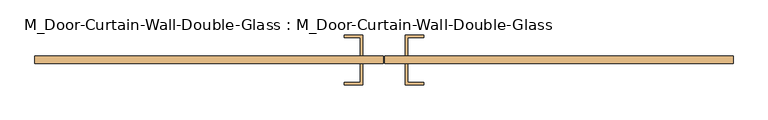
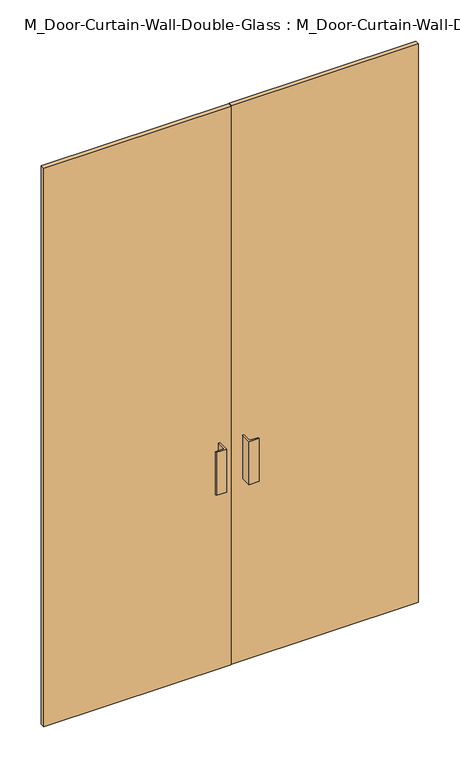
"""IFC4 building model written with IfcOpenShell, lengths in millimetres: door geometry, M_Door-Curtain-Wall-Double-Glass : M_Door-Curtain-Wall-Double-Glass."""

from ifc_helpers import new_model, si_unit, frame, origin, origin_with_axes, place, context, project, spatial, polyline, outline, extrude, source, transform, mapped, element, save


def m_door_curtain_wall_double_glass_m_door_curtain_wall_double_e74171b8(model_context):
    return source(origin(), model_context, "Body", "SweptSolid", [
        extrude(outline(polyline([(-1.5643999, 31.75), (-838.2, 31.75), (-838.2, 50.8), (-1.5643999, 50.8), (-1.5643999, 31.75)])), origin_with_axes(), (0.0, 0.0, 1.0), 2640.780647),
        extrude(outline(polyline([(838.2, 31.75), (1.6106001, 31.75), (1.6106001, 50.8), (838.2, 50.8), (838.2, 31.75)])), origin_with_axes(), (0.0, 0.0, 1.0), 2640.780647),
        extrude(outline(polyline([(-50.7768999, 101.6), (-50.7768999, 50.8), (-57.1268999, 50.8), (-57.1268999, 95.25), (-95.2268999, 95.25), (-95.2268999, 101.6), (-50.7768999, 101.6)])), frame((0.0, 0.0, 863.6), z_axis=(0.0, 0.0, 1.0), x_axis=(1.0, 0.0, 0.0)), (0.0, 0.0, 1.0), 203.2),
        extrude(outline(polyline([(50.8231001, 101.6), (95.2731001, 101.6), (95.2731001, 95.25), (57.1731001, 95.25), (57.1731001, 50.8), (50.8231001, 50.8), (50.8231001, 101.6)])), frame((0.0, 0.0, 863.6), z_axis=(0.0, 0.0, 1.0), x_axis=(1.0, 0.0, 0.0)), (0.0, 0.0, 1.0), 203.2),
        extrude(outline(polyline([(-50.7768999, -19.05), (-95.2268999, -19.05), (-95.2268999, -12.7), (-57.1268999, -12.7), (-57.1268999, 31.75), (-50.7768999, 31.75), (-50.7768999, -19.05)])), frame((0.0, 0.0, 863.6), z_axis=(0.0, 0.0, 1.0), x_axis=(1.0, 0.0, 0.0)), (0.0, 0.0, 1.0), 203.2),
        extrude(outline(polyline([(50.8231001, -19.05), (50.8231001, 31.75), (57.1731001, 31.75), (57.1731001, -12.7), (95.2731001, -12.7), (95.2731001, -19.05), (50.8231001, -19.05)])), frame((0.0, 0.0, 863.6), z_axis=(0.0, 0.0, 1.0), x_axis=(1.0, 0.0, 0.0)), (0.0, 0.0, 1.0), 203.2),
    ])


if __name__ == "__main__":
    model = new_model("IFC4")
    model_context = context("Model", 3, world=origin())
    ifc_project = project(units=[si_unit("LENGTHUNIT", "METRE", prefix="MILLI")], contexts=[model_context])
    site = spatial("IfcSite", under=ifc_project)
    building = spatial("IfcBuilding", under=site)
    placement = place(None, origin())
    m_door_curtain_wall_double_glass_m_door_curtain_wall_double_shape = m_door_curtain_wall_double_glass_m_door_curtain_wall_double_e74171b8(model_context)
    element("IfcDoor", 1, ObjectType="M_Door-Curtain-Wall-Double-Glass : M_Door-Curtain-Wall-Double-Glass", at=placement, inside=building, context=model_context, shape_type="MappedRepresentation", body=[
        mapped(m_door_curtain_wall_double_glass_m_door_curtain_wall_double_shape, transform((0.0, 0.0, 0.0), x_axis=(1.0, 0.0, 0.0), y_axis=(0.0, 1.0, 0.0), z_axis=(0.0, 0.0, 1.0))),
    ])
    save(model, "model.ifc")
